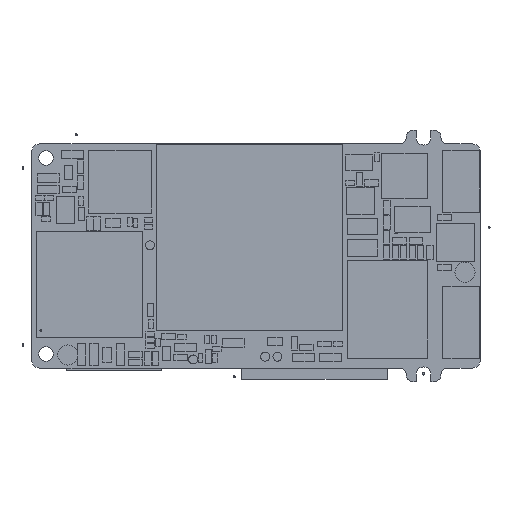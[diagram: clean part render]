
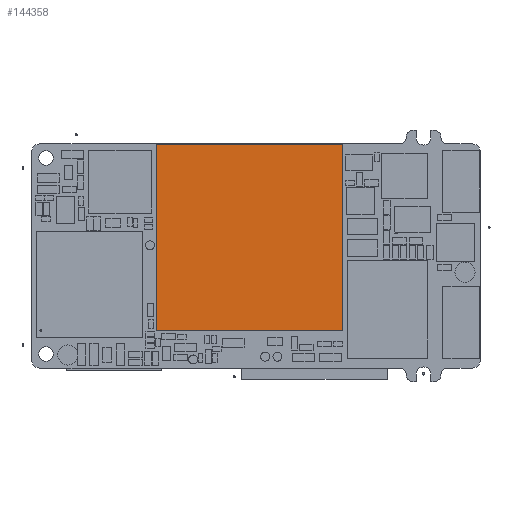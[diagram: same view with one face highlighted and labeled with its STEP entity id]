
A CAD part, top view. The second image highlights one B-rep face of the part: STEP entity #144358.
In plain terms, the highlighted planar face has unit normal (0, 0, 1).
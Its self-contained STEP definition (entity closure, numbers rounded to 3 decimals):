
#144044 = VERTEX_POINT('',#144045);
#144045 = CARTESIAN_POINT('',(25.089,33.104,1.6));
#144052 = PLANE('',#144053);
#144053 = AXIS2_PLACEMENT_3D('',#144054,#144055,#144056);
#144054 = CARTESIAN_POINT('',(25.089,33.104,0.));
#144055 = DIRECTION('',(1.,0.,0.));
#144056 = DIRECTION('',(0.,-1.,0.));
#144064 = PLANE('',#144065);
#144065 = AXIS2_PLACEMENT_3D('',#144066,#144067,#144068);
#144066 = CARTESIAN_POINT('',(46.171,33.104,0.));
#144067 = DIRECTION('',(0.,-1.,0.));
#144068 = DIRECTION('',(-1.,0.,0.));
#144076 = EDGE_CURVE('',#144044,#144077,#144079,.T.);
#144077 = VERTEX_POINT('',#144078);
#144078 = CARTESIAN_POINT('',(25.089,12.022,1.6));
#144079 = SURFACE_CURVE('',#144080,(#144084,#144091),.PCURVE_S1.);
#144080 = LINE('',#144081,#144082);
#144081 = CARTESIAN_POINT('',(25.089,33.104,1.6));
#144082 = VECTOR('',#144083,1.);
#144083 = DIRECTION('',(0.,-1.,0.));
#144084 = PCURVE('',#144052,#144085);
#144085 = DEFINITIONAL_REPRESENTATION('',(#144086),#144090);
#144086 = LINE('',#144087,#144088);
#144087 = CARTESIAN_POINT('',(0.,-1.6));
#144088 = VECTOR('',#144089,1.);
#144089 = DIRECTION('',(1.,0.));
#144090 = ( GEOMETRIC_REPRESENTATION_CONTEXT(2) 
PARAMETRIC_REPRESENTATION_CONTEXT() REPRESENTATION_CONTEXT('2D SPACE',''
  ) );
#144091 = PCURVE('',#144092,#144097);
#144092 = PLANE('',#144093);
#144093 = AXIS2_PLACEMENT_3D('',#144094,#144095,#144096);
#144094 = CARTESIAN_POINT('',(25.089,33.104,1.6));
#144095 = DIRECTION('',(0.,0.,-1.));
#144096 = DIRECTION('',(0.,1.,0.));
#144097 = DEFINITIONAL_REPRESENTATION('',(#144098),#144102);
#144098 = LINE('',#144099,#144100);
#144099 = CARTESIAN_POINT('',(0.,0.));
#144100 = VECTOR('',#144101,1.);
#144101 = DIRECTION('',(-1.,0.));
#144102 = ( GEOMETRIC_REPRESENTATION_CONTEXT(2) 
PARAMETRIC_REPRESENTATION_CONTEXT() REPRESENTATION_CONTEXT('2D SPACE',''
  ) );
#144120 = PLANE('',#144121);
#144121 = AXIS2_PLACEMENT_3D('',#144122,#144123,#144124);
#144122 = CARTESIAN_POINT('',(25.089,12.022,0.));
#144123 = DIRECTION('',(0.,1.,0.));
#144124 = DIRECTION('',(1.,0.,0.));
#144164 = VERTEX_POINT('',#144165);
#144165 = CARTESIAN_POINT('',(46.171,33.104,1.6));
#144179 = PLANE('',#144180);
#144180 = AXIS2_PLACEMENT_3D('',#144181,#144182,#144183);
#144181 = CARTESIAN_POINT('',(46.171,12.022,0.));
#144182 = DIRECTION('',(-1.,0.,0.));
#144183 = DIRECTION('',(0.,1.,0.));
#144191 = EDGE_CURVE('',#144164,#144044,#144192,.T.);
#144192 = SURFACE_CURVE('',#144193,(#144197,#144204),.PCURVE_S1.);
#144193 = LINE('',#144194,#144195);
#144194 = CARTESIAN_POINT('',(46.171,33.104,1.6));
#144195 = VECTOR('',#144196,1.);
#144196 = DIRECTION('',(-1.,0.,0.));
#144197 = PCURVE('',#144064,#144198);
#144198 = DEFINITIONAL_REPRESENTATION('',(#144199),#144203);
#144199 = LINE('',#144200,#144201);
#144200 = CARTESIAN_POINT('',(0.,-1.6));
#144201 = VECTOR('',#144202,1.);
#144202 = DIRECTION('',(1.,0.));
#144203 = ( GEOMETRIC_REPRESENTATION_CONTEXT(2) 
PARAMETRIC_REPRESENTATION_CONTEXT() REPRESENTATION_CONTEXT('2D SPACE',''
  ) );
#144204 = PCURVE('',#144092,#144205);
#144205 = DEFINITIONAL_REPRESENTATION('',(#144206),#144210);
#144206 = LINE('',#144207,#144208);
#144207 = CARTESIAN_POINT('',(0.,21.082));
#144208 = VECTOR('',#144209,1.);
#144209 = DIRECTION('',(0.,-1.));
#144210 = ( GEOMETRIC_REPRESENTATION_CONTEXT(2) 
PARAMETRIC_REPRESENTATION_CONTEXT() REPRESENTATION_CONTEXT('2D SPACE',''
  ) );
#144238 = EDGE_CURVE('',#144077,#144239,#144241,.T.);
#144239 = VERTEX_POINT('',#144240);
#144240 = CARTESIAN_POINT('',(46.171,12.022,1.6));
#144241 = SURFACE_CURVE('',#144242,(#144246,#144253),.PCURVE_S1.);
#144242 = LINE('',#144243,#144244);
#144243 = CARTESIAN_POINT('',(25.089,12.022,1.6));
#144244 = VECTOR('',#144245,1.);
#144245 = DIRECTION('',(1.,0.,0.));
#144246 = PCURVE('',#144120,#144247);
#144247 = DEFINITIONAL_REPRESENTATION('',(#144248),#144252);
#144248 = LINE('',#144249,#144250);
#144249 = CARTESIAN_POINT('',(0.,-1.6));
#144250 = VECTOR('',#144251,1.);
#144251 = DIRECTION('',(1.,0.));
#144252 = ( GEOMETRIC_REPRESENTATION_CONTEXT(2) 
PARAMETRIC_REPRESENTATION_CONTEXT() REPRESENTATION_CONTEXT('2D SPACE',''
  ) );
#144253 = PCURVE('',#144092,#144254);
#144254 = DEFINITIONAL_REPRESENTATION('',(#144255),#144259);
#144255 = LINE('',#144256,#144257);
#144256 = CARTESIAN_POINT('',(-21.082,0.));
#144257 = VECTOR('',#144258,1.);
#144258 = DIRECTION('',(0.,1.));
#144259 = ( GEOMETRIC_REPRESENTATION_CONTEXT(2) 
PARAMETRIC_REPRESENTATION_CONTEXT() REPRESENTATION_CONTEXT('2D SPACE',''
  ) );
#144309 = EDGE_CURVE('',#144239,#144164,#144310,.T.);
#144310 = SURFACE_CURVE('',#144311,(#144315,#144322),.PCURVE_S1.);
#144311 = LINE('',#144312,#144313);
#144312 = CARTESIAN_POINT('',(46.171,12.022,1.6));
#144313 = VECTOR('',#144314,1.);
#144314 = DIRECTION('',(0.,1.,0.));
#144315 = PCURVE('',#144179,#144316);
#144316 = DEFINITIONAL_REPRESENTATION('',(#144317),#144321);
#144317 = LINE('',#144318,#144319);
#144318 = CARTESIAN_POINT('',(0.,-1.6));
#144319 = VECTOR('',#144320,1.);
#144320 = DIRECTION('',(1.,0.));
#144321 = ( GEOMETRIC_REPRESENTATION_CONTEXT(2) 
PARAMETRIC_REPRESENTATION_CONTEXT() REPRESENTATION_CONTEXT('2D SPACE',''
  ) );
#144322 = PCURVE('',#144092,#144323);
#144323 = DEFINITIONAL_REPRESENTATION('',(#144324),#144328);
#144324 = LINE('',#144325,#144326);
#144325 = CARTESIAN_POINT('',(-21.082,21.082));
#144326 = VECTOR('',#144327,1.);
#144327 = DIRECTION('',(1.,0.));
#144328 = ( GEOMETRIC_REPRESENTATION_CONTEXT(2) 
PARAMETRIC_REPRESENTATION_CONTEXT() REPRESENTATION_CONTEXT('2D SPACE',''
  ) );
#144358 = ADVANCED_FACE('',(#144359),#144092,.F.);
#144359 = FACE_BOUND('',#144360,.F.);
#144360 = EDGE_LOOP('',(#144361,#144362,#144363,#144364));
#144361 = ORIENTED_EDGE('',*,*,#144076,.F.);
#144362 = ORIENTED_EDGE('',*,*,#144191,.F.);
#144363 = ORIENTED_EDGE('',*,*,#144309,.F.);
#144364 = ORIENTED_EDGE('',*,*,#144238,.F.);
